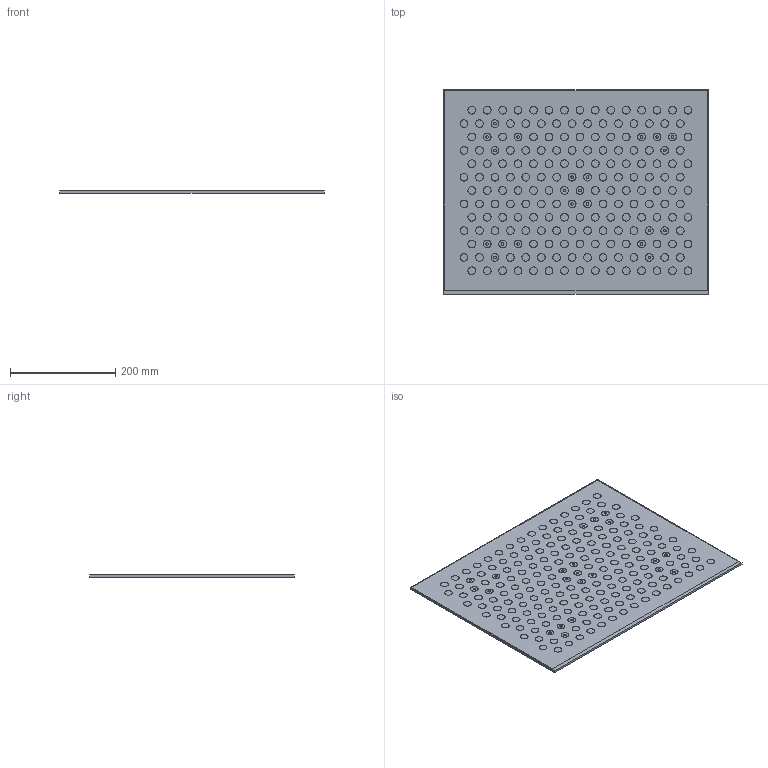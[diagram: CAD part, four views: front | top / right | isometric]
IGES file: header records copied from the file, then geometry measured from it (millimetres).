
Global section: file name: 153-13572_ZCP 500-13x15; native system: Autodesk Inventor 2018; preprocessor: unknown; author: ss; date: 20190326.095037; units: millimetre
Bounding box: 504 x 389 x 4.05 mm (x, y, z)
Volume: 792071.8 mm3; surface area: 399865.8 mm2
Topology: 1 solids, 1 shells, 451 faces, 693 edges, 462 vertices
Faces by surface type: bspline 451
